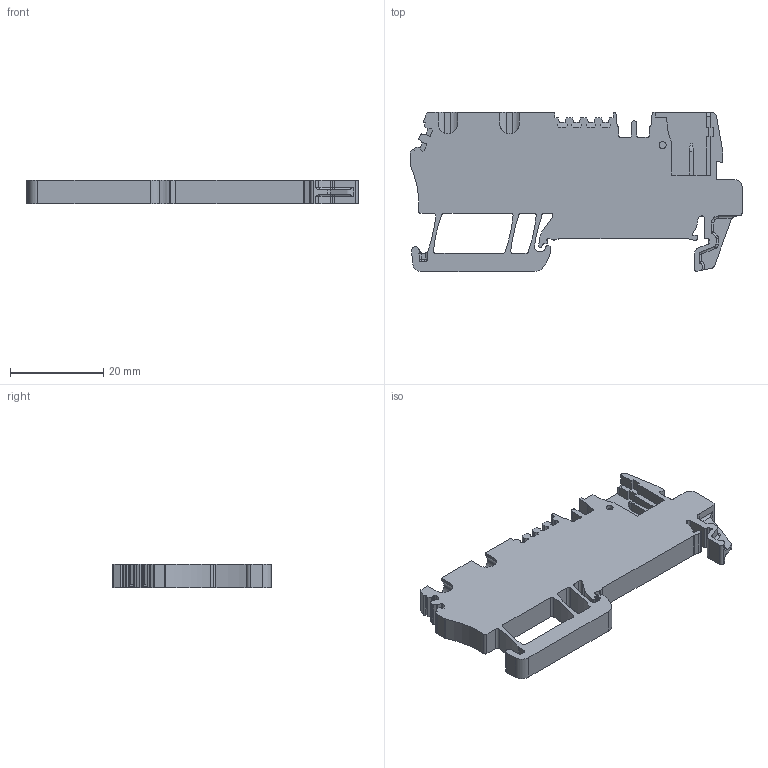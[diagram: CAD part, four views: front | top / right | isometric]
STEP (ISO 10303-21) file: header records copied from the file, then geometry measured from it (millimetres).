
FILE_DESCRIPTION(('CATIA V5 STEP'),'2;1');
FILE_NAME('E:\FriedrichSchmidt\Daten-STP\1815090000_34446_ZT_2.5-3AN-1_STP.stp','2006-02-22T13:16:51+00:00',('none'),('none'),'CATIA Version 5 Release 12 (IN-9)','CATIA V5 STEP AP203','none');
FILE_SCHEMA(('CONFIG_CONTROL_DESIGN'));
Length unit declared in the file: millimetre
Products named in the file (1): 1815090000_34446_ZT_2.5-3AN-1_STP
Bounding box: 71.05 x 34.05 x 5.1 mm (x, y, z)
Volume: 7431.8 mm3; surface area: 6345.2 mm2
Topology: 1 solids, 1 shells, 494 faces, 1446 edges, 949 vertices
Faces by surface type: plane 282, cylinder 185, torus 15, sphere 6, bspline 5, revolution 1
Entity records: 16076 total; most frequent: CARTESIAN_POINT 3423, ORIENTED_EDGE 2876, DIRECTION 2198, EDGE_CURVE 1438, VECTOR 1009, LINE 1009, VERTEX_POINT 949, AXIS2_PLACEMENT_3D 775
